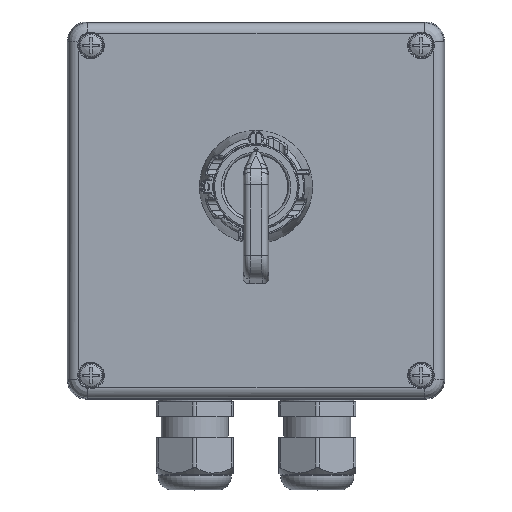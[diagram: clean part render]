
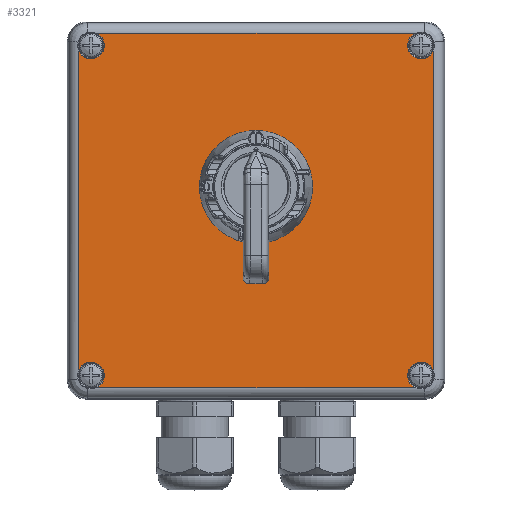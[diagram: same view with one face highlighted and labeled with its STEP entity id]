
A CAD part, top view. The second image highlights one B-rep face of the part: STEP entity #3321.
In plain terms, the highlighted planar face has unit normal (0, 0, 1).
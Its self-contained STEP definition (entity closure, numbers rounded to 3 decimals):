
#2038=PLANE('',#26912);
#3321=ADVANCED_FACE('',(#4853),#2038,.F.);
#4853=FACE_OUTER_BOUND('',#6406,.T.);
#6406=EDGE_LOOP('',(#13766,#13767,#13768,#13769,#13770,#13771,#13772,#13773));
#7448=CIRCLE('',#26908,5.662);
#7449=CIRCLE('',#26909,5.662);
#7450=CIRCLE('',#26910,5.662);
#7451=CIRCLE('',#26911,5.662);
#13766=ORIENTED_EDGE('',*,*,#20851,.T.);
#13767=ORIENTED_EDGE('',*,*,#20837,.T.);
#13768=ORIENTED_EDGE('',*,*,#20852,.F.);
#13769=ORIENTED_EDGE('',*,*,#20850,.F.);
#13770=ORIENTED_EDGE('',*,*,#20853,.T.);
#13771=ORIENTED_EDGE('',*,*,#20654,.T.);
#13772=ORIENTED_EDGE('',*,*,#20854,.F.);
#13773=ORIENTED_EDGE('',*,*,#20667,.F.);
#17272=VERTEX_POINT('',#47613);
#17276=VERTEX_POINT('',#47739);
#17352=VERTEX_POINT('',#49736);
#17356=VERTEX_POINT('',#49862);
#17431=VERTEX_POINT('',#51837);
#17433=VERTEX_POINT('',#51941);
#17507=VERTEX_POINT('',#53959);
#17509=VERTEX_POINT('',#54063);
#20654=EDGE_CURVE('',#17356,#17433,#23080,.T.);
#20667=EDGE_CURVE('',#17272,#17431,#23093,.T.);
#20837=EDGE_CURVE('',#17276,#17509,#23185,.T.);
#20850=EDGE_CURVE('',#17352,#17507,#23198,.T.);
#20851=EDGE_CURVE('',#17272,#17276,#7448,.T.);
#20852=EDGE_CURVE('',#17507,#17509,#7449,.T.);
#20853=EDGE_CURVE('',#17352,#17356,#7450,.T.);
#20854=EDGE_CURVE('',#17431,#17433,#7451,.T.);
#23080=LINE('',#52642,#24859);
#23093=LINE('',#52665,#24872);
#23185=LINE('',#54843,#24964);
#23198=LINE('',#54866,#24977);
#24859=VECTOR('',#31673,1.);
#24872=VECTOR('',#31706,1.);
#24964=VECTOR('',#31914,1.);
#24977=VECTOR('',#31947,1.);
#26908=AXIS2_PLACEMENT_3D('',#54870,#31954,#31955);
#26909=AXIS2_PLACEMENT_3D('',#54871,#31956,#31957);
#26910=AXIS2_PLACEMENT_3D('',#54872,#31958,#31959);
#26911=AXIS2_PLACEMENT_3D('',#54873,#31960,#31961);
#26912=AXIS2_PLACEMENT_3D('',#54874,#31962,#31963);
#31673=DIRECTION('',(0.,-1.,0.));
#31706=DIRECTION('',(-1.,0.,0.));
#31914=DIRECTION('',(0.,1.,0.));
#31947=DIRECTION('',(1.,0.,0.));
#31954=DIRECTION('',(0.,0.,-1.));
#31955=DIRECTION('',(1.,0.,0.));
#31956=DIRECTION('',(0.,0.,1.));
#31957=DIRECTION('',(1.,0.,0.));
#31958=DIRECTION('',(0.,0.,-1.));
#31959=DIRECTION('',(-1.,0.,0.));
#31960=DIRECTION('',(0.,0.,1.));
#31961=DIRECTION('',(-1.,0.,0.));
#31962=DIRECTION('',(0.,0.,-1.));
#31963=DIRECTION('',(-1.,0.,0.));
#47613=CARTESIAN_POINT('',(-100.601,-175.037,30.407));
#47739=CARTESIAN_POINT('',(-93.033,-167.469,30.407));
#49736=CARTESIAN_POINT('',(-235.65,-24.852,30.407));
#49862=CARTESIAN_POINT('',(-243.218,-32.42,30.407));
#51837=CARTESIAN_POINT('',(-235.65,-175.037,30.407));
#51941=CARTESIAN_POINT('',(-243.218,-167.469,30.407));
#52642=CARTESIAN_POINT('',(-243.218,-32.42,30.407));
#52665=CARTESIAN_POINT('',(-100.601,-175.037,30.407));
#53959=CARTESIAN_POINT('',(-100.601,-24.852,30.407));
#54063=CARTESIAN_POINT('',(-93.033,-32.42,30.407));
#54843=CARTESIAN_POINT('',(-93.033,-167.469,30.407));
#54866=CARTESIAN_POINT('',(-235.65,-24.852,30.407));
#54870=CARTESIAN_POINT('',(-98.125,-169.944,30.407));
#54871=CARTESIAN_POINT('',(-98.125,-29.944,30.407));
#54872=CARTESIAN_POINT('',(-238.125,-29.944,30.407));
#54873=CARTESIAN_POINT('',(-238.125,-169.944,30.407));
#54874=CARTESIAN_POINT('',(-243.219,-24.851,30.407));
